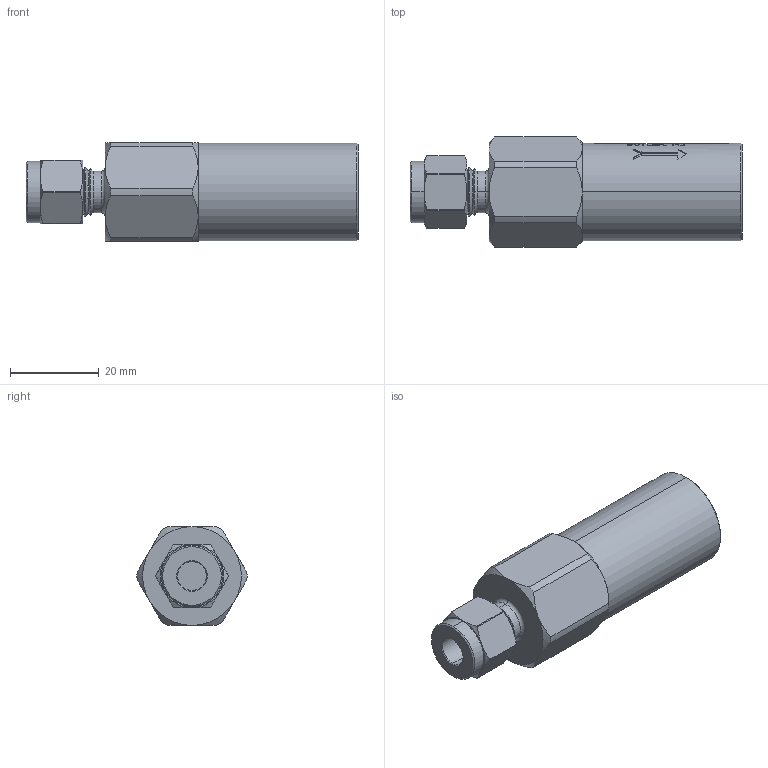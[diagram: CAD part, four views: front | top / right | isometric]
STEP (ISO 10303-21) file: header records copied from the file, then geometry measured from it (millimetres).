
FILE_DESCRIPTION (( 'STEP AP203' ), '1' );
FILE_NAME ('IRV-4T.STEP', '2020-08-13T12:32:41', ( '' ), ( '' ), 'SwSTEP 2.0', 'SolidWorks 2020', '' );
FILE_SCHEMA (( 'CONFIG_CONTROL_DESIGN' ));
Length unit declared in the file: inch
Products named in the file (2): IRV-4T; Part9^IRV-4T
Assembly tree (1 placements, depth 2):
  IRV-4T
    Part9^IRV-4T
Bounding box: 74.7 x 24.76 x 22.23 mm (x, y, z)
Volume: 21175.4 mm3; surface area: 6735 mm2
Topology: 1 solids, 1 shells, 314 faces, 814 edges, 529 vertices
Faces by surface type: plane 149, bspline 70, cylinder 51, cone 42, torus 2
Entity records: 14431 total; most frequent: CARTESIAN_POINT 7136, ORIENTED_EDGE 1624, DIRECTION 1238, EDGE_CURVE 812, VERTEX_POINT 529, AXIS2_PLACEMENT_3D 464, EDGE_LOOP 343, FACE_OUTER_BOUND 314
